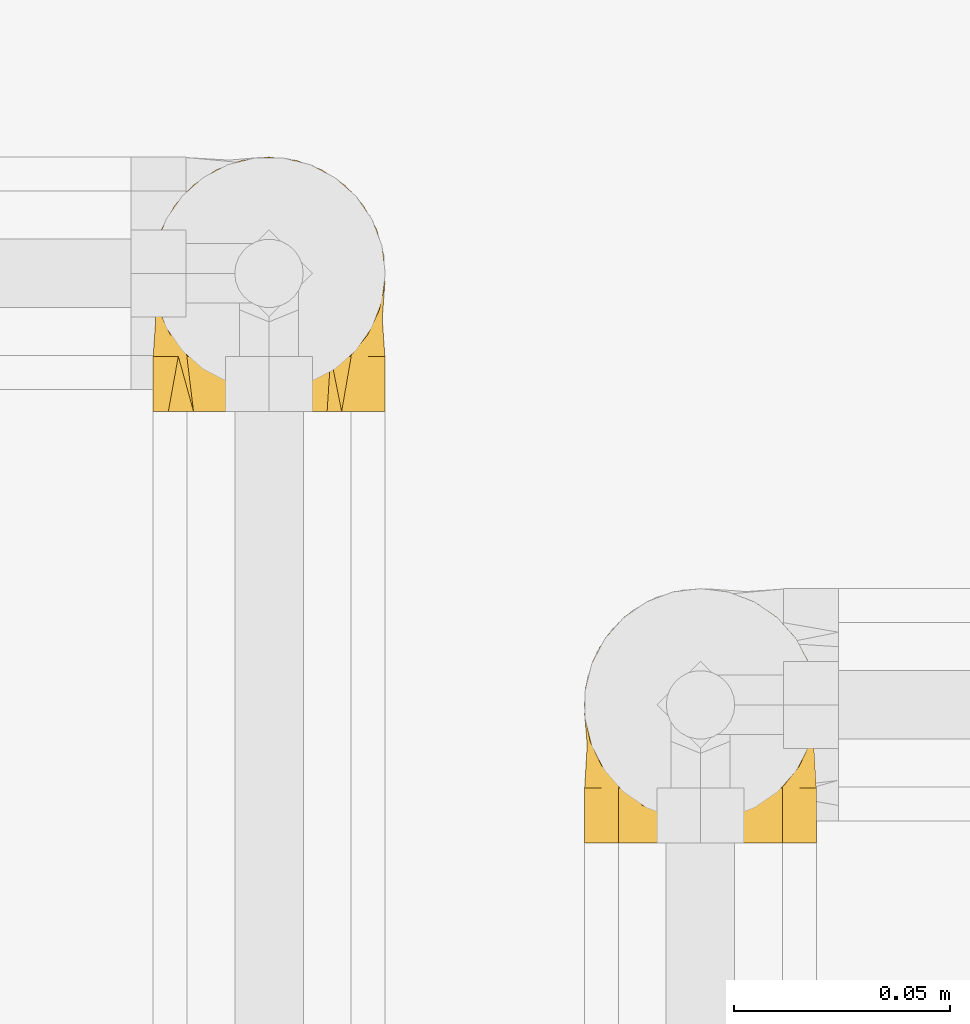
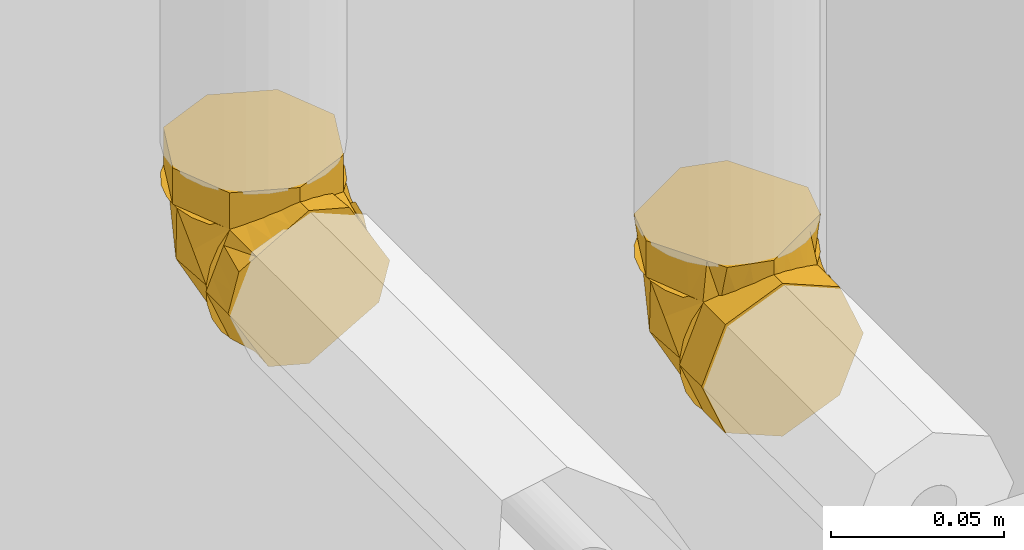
# One storey, part 387 of 652: 2 coverings.
"""IFC2X3 building model written with IfcOpenShell, lengths in millimetres."""

from ifc_helpers import new_model, entity, si_unit, converted_unit, direction, frame, origin, place, context, subcontext, project, spatial, face_set, surface_model, material, type_object, element, save


model = new_model("IFC2X3")

# Units and contexts
model_context = context("Model", 3, precision=0.01, world=frame((0.0, 0.0, 308426.39999999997)), true_north=direction((6.123233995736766e-17, 1.0)))
plan_context = context("Plan", 3, precision=0.01, world=frame((0.0, 0.0, 308426.39999999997)), true_north=direction((6.123233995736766e-17, 1.0)))
body_context = subcontext(model_context, "Body", "Model", "MODEL_VIEW")
ifc_project = project(units=[si_unit("LENGTHUNIT", "METRE", prefix="MILLI"), si_unit("AREAUNIT", "SQUARE_METRE"), si_unit("VOLUMEUNIT", "CUBIC_METRE"), converted_unit("PLANEANGLEUNIT", "DEGREE", entity("IfcPlaneAngleMeasure", 0.017453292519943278), si_unit("PLANEANGLEUNIT", "RADIAN"), dimensions=[0, 0, 0, 0, 0, 0, 0])], contexts=[model_context, plan_context])

# Site, building, storey
site_placement = place(None, origin())
site = spatial("IfcSite", under=ifc_project, at=site_placement, Name="Default", CompositionType="ELEMENT")
building_placement = place(site_placement, origin())
building = spatial("IfcBuilding", under=site, at=building_placement, CompositionType="ELEMENT")
storey_placement = place(building_placement, frame((0.0, 0.0, 1730.6999999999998)))
storey = spatial("IfcBuildingStorey", under=building, at=storey_placement, Name="EG_Produktion_FFB", CompositionType="ELEMENT", Elevation=1730.6999999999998)

# Coverings
ifc_material = material(Name="Dämmung - Armaflex-Schlauch")
covering_type = type_object("IfcCoveringType", Name="Rohrdämmung außen:Armaflex-Schlauch", PredefinedType="INSULATION")
covering_1_placement = place(storey_placement, frame((66196.95799511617, 48922.86390995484, 2671.4672277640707)))
element("IfcCovering", 1, at=covering_1_placement, inside=storey, type_object=covering_type, material=ifc_material, Name="Rohrdämmung außen:Armaflex-Schlauch", ObjectType="Rohrdämmung außen:Armaflex-Schlauch", PredefinedType="INSULATION", context=body_context, shape_type="SurfaceModel", body=[
    surface_model("IfcFaceBasedSurfaceModel", [(47.409122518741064, 12.766249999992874, 47.750272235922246), (51.38658262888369, 17.724287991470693, 47.750272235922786), (54.0915642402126, 23.47627931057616, 47.750272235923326), (55.37345654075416, 29.70195853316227, 47.75027223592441), (55.16088498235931, 36.054685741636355, 47.75027223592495), (53.465685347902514, 42.1807471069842, 47.75027223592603), (50.38224474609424, 47.7390493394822, 47.75027223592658), (46.08224622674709, 52.420111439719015, 47.75027223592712), (40.8051096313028, 55.963296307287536, 47.75027223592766), (34.844660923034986, 58.17132276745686, 47.75027223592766), (28.532772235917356, 58.921249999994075, 47.75027223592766), (22.220883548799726, 58.17132276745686, 47.75027223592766), (16.26043484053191, 55.963296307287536, 47.75027223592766), (10.983298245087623, 52.420111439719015, 47.75027223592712), (6.683299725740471, 47.7390493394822, 47.75027223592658), (3.599859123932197, 42.1807471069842, 47.75027223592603), (1.904659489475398, 36.054685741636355, 47.75027223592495), (1.6920879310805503, 29.70195853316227, 47.75027223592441), (2.973980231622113, 23.47627931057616, 47.750272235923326), (5.678961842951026, 17.724287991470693, 47.750272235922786), (9.65642195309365, 12.766249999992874, 47.750272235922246), (5.678961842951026, 12.766249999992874, 42.79223424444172), (2.973980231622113, 12.766249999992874, 37.04024292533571), (1.6920879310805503, 12.766249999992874, 30.81456370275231), (1.904659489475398, 12.766249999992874, 24.46183649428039), (3.599859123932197, 12.766249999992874, 18.33577512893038), (6.683299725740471, 12.766249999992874, 12.777472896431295), (10.983298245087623, 12.766250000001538, 8.096410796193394), (16.26043484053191, 12.766250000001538, 4.553225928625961), (22.220883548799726, 12.766250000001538, 2.3451994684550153), (28.532772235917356, 12.766250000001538, 1.5952722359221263), (34.844660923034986, 12.766250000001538, 2.3451994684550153), (40.8051096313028, 12.766250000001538, 4.553225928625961), (46.08224622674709, 12.766250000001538, 8.096410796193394), (50.38224474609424, 12.766249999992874, 12.777472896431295), (53.465685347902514, 12.766249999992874, 18.33577512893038), (55.16088498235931, 12.766249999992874, 24.46183649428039), (55.37345654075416, 12.766249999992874, 30.81456370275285), (54.0915642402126, 12.766249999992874, 37.04024292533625), (51.38658262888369, 12.766249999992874, 42.79223424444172), (54.78877002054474, 21.446258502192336, 37.80740068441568), (28.534558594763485, 52.737371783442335, 24.6727372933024), (53.467920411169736, 33.56644893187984, 26.95108659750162), (50.72855273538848, 41.05901484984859, 47.750398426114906), (28.534558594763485, 31.031719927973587, 12.139781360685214), (42.78020068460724, 41.840362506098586, 17.33248765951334), (50.72855273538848, 12.767718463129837, 19.455613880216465), (14.284265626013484, 41.840362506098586, 17.33248765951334), (3.6011967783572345, 33.56644893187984, 26.95108659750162), (2.2756962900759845, 21.446258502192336, 37.80740068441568), (6.335913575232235, 12.767718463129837, 19.455613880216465), (6.335913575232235, 41.05901484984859, 47.750398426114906), (42.818538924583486, 53.00389168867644, 60.51652223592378), (38.056616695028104, 54.97634445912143, 60.51652223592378), (33.29469446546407, 56.948797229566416, 60.51652223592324), (28.532772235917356, 58.921250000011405, 60.5165222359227), (23.77085000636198, 56.948797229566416, 60.5165222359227), (19.008927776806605, 54.97634445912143, 60.51652223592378), (14.247005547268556, 53.00389168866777, 60.51652223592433), (9.485083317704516, 51.03143891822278, 60.51652223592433), (7.512630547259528, 46.26951668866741, 60.51652223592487), (5.540177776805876, 41.507594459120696, 60.51652223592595), (3.567725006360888, 36.74567222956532, 60.51652223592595), (1.5952722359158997, 31.983750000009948, 60.516522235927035), (3.567725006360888, 27.22182777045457, 60.516522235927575), (5.540177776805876, 22.459905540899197, 60.516522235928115), (7.512630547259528, 17.697983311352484, 60.516522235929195), (9.485083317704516, 12.936061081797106, 60.51652223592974), (14.247005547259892, 10.963608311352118, 60.51652223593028), (19.008927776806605, 8.991155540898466, 60.51652223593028), (23.77085000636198, 7.018702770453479, 60.51652223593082), (28.532772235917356, 5.046250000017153, 60.51652223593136), (33.29469446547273, 7.018702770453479, 60.51652223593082), (38.056616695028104, 8.991155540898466, 60.51652223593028), (42.818538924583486, 10.963608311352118, 60.51652223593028), (47.5804611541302, 12.936061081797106, 60.51652223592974), (49.552913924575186, 17.697983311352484, 60.516522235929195), (51.525366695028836, 22.459905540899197, 60.516522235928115), (53.497819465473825, 27.22182777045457, 60.516522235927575), (55.47027223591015, 31.983750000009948, 60.516522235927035), (53.497819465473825, 36.74567222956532, 60.51652223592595), (51.525366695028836, 41.507594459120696, 60.51652223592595), (49.552913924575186, 46.26951668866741, 60.51652223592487), (47.5804611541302, 51.03143891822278, 60.51652223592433), (28.532772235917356, 58.92125000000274, 47.75027223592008), (33.29469446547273, 56.948797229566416, 47.75027223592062), (38.056616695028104, 54.97634445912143, 47.750272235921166), (42.81853892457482, 53.00389168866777, 47.750272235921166), (47.5804611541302, 51.03143891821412, 47.750272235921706), (49.96980627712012, 45.26304951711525, 47.750272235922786), (52.35915140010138, 39.49466011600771, 47.750272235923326), (55.47027223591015, 31.983750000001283, 47.75027223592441), (53.497819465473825, 27.22182777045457, 47.75027223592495), (51.525366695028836, 22.459905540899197, 47.75027223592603), (49.552913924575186, 17.69798331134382, 47.75027223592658), (47.5804611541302, 12.936061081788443, 47.75027223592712), (41.81207175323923, 10.546715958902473, 47.75027223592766), (36.0436823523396, 8.157370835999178, 47.7502722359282), (28.532772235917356, 5.046250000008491, 47.75027223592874), (23.77085000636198, 7.018702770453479, 47.7502722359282), (19.008927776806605, 8.991155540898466, 47.7502722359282), (14.247005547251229, 10.963608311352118, 47.7502722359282), (9.485083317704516, 12.936061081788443, 47.75027223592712), (7.095738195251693, 18.704450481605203, 47.75027223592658), (4.706393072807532, 24.472839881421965, 47.75027223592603), (1.5952722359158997, 31.983750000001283, 47.75027223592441), (3.567725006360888, 36.74567222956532, 47.75027223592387), (5.540177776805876, 41.507594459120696, 47.750272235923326), (7.512630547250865, 46.26951668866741, 47.750272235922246), (9.485083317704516, 51.03143891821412, 47.750272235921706), (15.253472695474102, 53.42078403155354, 47.750272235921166), (21.021862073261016, 55.810129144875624, 47.750272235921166), (28.532772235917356, 0.0, 1.5952722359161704), (34.36491206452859, 0.0, 4.962459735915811), (40.197051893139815, 0.0, 8.329647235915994), (46.02919172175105, 0.0, 11.696834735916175), (51.86133155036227, 0.0, 15.064022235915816), (53.66580189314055, 0.0, 21.798397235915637), (55.47027223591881, 0.0, 28.532772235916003), (52.10308473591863, 0.0, 34.36491206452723), (48.73589723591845, 0.0, 40.19705189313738), (45.368709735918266, 0.0, 46.02919172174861), (42.00152223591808, 0.0, 51.861331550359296), (35.26714723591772, 0.0, 53.66580189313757), (28.532772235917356, 0.0, 55.470272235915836), (22.700632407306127, 0.0, 52.10308473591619), (16.868492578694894, 0.0, 48.73589723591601), (11.036352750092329, 0.0, 45.36870973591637), (5.204212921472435, 0.0, 42.00152223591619), (3.3997425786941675, 0.0, 35.26714723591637), (1.5952722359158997, 0.0, 28.532772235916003), (4.962459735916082, 0.0, 22.700632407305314), (8.329647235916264, 0.0, 16.868492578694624), (11.696834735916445, 0.0, 11.036352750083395), (15.064022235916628, 0.0, 5.204212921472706), (21.79839723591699, 0.0, 3.3997425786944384), (28.532772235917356, 12.766250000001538, 1.5952722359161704), (23.77085000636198, 12.766250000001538, 3.567725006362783), (19.008927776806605, 12.766250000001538, 5.540177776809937), (14.247005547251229, 12.766250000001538, 7.512630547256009), (9.485083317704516, 12.766250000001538, 9.485083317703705), (7.512630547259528, 12.766250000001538, 14.247005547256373), (5.540177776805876, 12.766250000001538, 19.008927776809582), (3.567725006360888, 12.766250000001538, 23.770850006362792), (1.5952722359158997, 12.766250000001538, 28.532772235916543), (3.567725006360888, 12.766250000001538, 33.29469446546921), (5.540177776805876, 12.766250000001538, 38.05661669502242), (7.512630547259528, 12.766250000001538, 42.818538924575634), (9.485083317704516, 12.766250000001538, 47.58046115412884), (14.247005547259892, 12.766250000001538, 49.552913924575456), (19.008927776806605, 12.766250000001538, 51.525366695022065), (23.77085000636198, 12.766250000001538, 53.49781946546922), (28.532772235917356, 12.766250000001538, 55.470272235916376), (33.29469446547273, 12.766250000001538, 53.49781946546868), (38.056616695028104, 12.766250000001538, 51.525366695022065), (42.818538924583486, 12.766250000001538, 49.552913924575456), (47.5804611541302, 12.766250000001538, 47.58046115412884), (49.552913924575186, 12.766250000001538, 42.818538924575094), (51.525366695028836, 12.766250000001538, 38.05661669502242), (53.497819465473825, 12.766250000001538, 33.29469446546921), (55.47027223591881, 12.766250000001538, 28.532772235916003), (53.497819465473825, 12.766250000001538, 23.770850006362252), (51.525366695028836, 12.766250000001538, 19.008927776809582), (49.552913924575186, 12.766250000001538, 14.247005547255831), (47.5804611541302, 12.766250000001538, 9.485083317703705), (42.818538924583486, 12.766250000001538, 7.512630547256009), (38.056616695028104, 12.766250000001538, 5.540177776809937), (33.29469446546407, 12.766250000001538, 3.5677250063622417)], [face_set([[[0, 1, 2, 3, 4, 5, 6, 7, 8, 9, 10, 11, 12, 13, 14, 15, 16, 17, 18, 19]], [[20, 21, 22, 23, 24, 25, 26, 27, 28, 29, 30, 31, 32, 33, 34, 35, 36, 37, 38, 39]], [[0, 40, 3]], [[10, 7, 41]], [[37, 42, 40]], [[42, 7, 43]], [[37, 40, 0]], [[3, 40, 42]], [[44, 41, 45]], [[7, 45, 41]], [[33, 30, 44]], [[44, 45, 33]], [[42, 33, 45]], [[42, 37, 46]], [[7, 42, 45]], [[43, 3, 42]], [[46, 33, 42]], [[13, 10, 41]], [[27, 47, 44]], [[44, 30, 27]], [[48, 47, 27]], [[49, 48, 23]], [[48, 50, 23]], [[44, 47, 41]], [[20, 49, 23]], [[47, 48, 13]], [[17, 49, 20]], [[41, 47, 13]], [[48, 17, 51]], [[48, 27, 50]], [[17, 48, 49]], [[51, 13, 48]]]), face_set([[[52, 53, 54, 55, 56, 57, 58, 59, 60, 61, 62, 63, 64, 65, 66, 67, 68, 69, 70, 71, 72, 73, 74, 75, 76, 77, 78, 79, 80, 81, 82, 83]], [[84, 85, 86, 87, 88, 89, 90, 91, 92, 93, 94, 95, 96, 97, 98, 99, 100, 101, 102, 103, 104, 105, 106, 107, 108, 109, 110, 111]], [[111, 110, 109, 59, 58, 57, 56, 55, 84]], [[59, 109, 108, 107, 106, 105, 63, 62, 61, 60]], [[104, 103, 102, 67, 66, 65, 64, 63, 105]], [[67, 102, 101, 100, 99, 98, 71, 70, 69, 68]], [[97, 96, 95, 75, 74, 73, 72, 71, 98]], [[75, 95, 94, 93, 92, 91, 79, 78, 77, 76]], [[90, 89, 88, 83, 82, 81, 80, 79, 91]], [[83, 88, 87, 86, 85, 84, 55, 54, 53, 52]]]), face_set([[[112, 113, 114, 115, 116, 117, 118, 119, 120, 121, 122, 123, 124, 125, 126, 127, 128, 129, 130, 131, 132, 133, 134, 135]], [[136, 137, 138, 139, 140, 141, 142, 143, 144, 145, 146, 147, 148, 149, 150, 151, 152, 153, 154, 155, 156, 157, 158, 159, 160, 161, 162, 163, 164, 165, 166, 167]], [[155, 121, 156]], [[118, 159, 119]], [[159, 158, 119]], [[123, 154, 153]], [[153, 152, 124]], [[121, 155, 122]], [[120, 158, 157]], [[118, 160, 159]], [[158, 120, 119]], [[124, 123, 153]], [[157, 156, 121]], [[155, 154, 122]], [[123, 122, 154]], [[120, 157, 121]], [[163, 115, 164]], [[112, 167, 113]], [[167, 166, 113]], [[117, 162, 161]], [[161, 160, 118]], [[115, 163, 116]], [[114, 166, 165]], [[112, 136, 167]], [[166, 114, 113]], [[118, 117, 161]], [[165, 164, 115]], [[163, 162, 116]], [[117, 116, 162]], [[114, 165, 115]], [[139, 133, 140]], [[130, 143, 131]], [[143, 142, 131]], [[135, 138, 137]], [[137, 136, 112]], [[133, 139, 134]], [[132, 142, 141]], [[130, 144, 143]], [[142, 132, 131]], [[112, 135, 137]], [[141, 140, 133]], [[139, 138, 134]], [[135, 134, 138]], [[132, 141, 133]], [[147, 127, 148]], [[124, 151, 125]], [[151, 150, 125]], [[129, 146, 145]], [[145, 144, 130]], [[127, 147, 128]], [[126, 150, 149]], [[124, 152, 151]], [[150, 126, 125]], [[130, 129, 145]], [[149, 148, 127]], [[147, 146, 128]], [[129, 128, 146]], [[126, 149, 127]]])]),
])
covering_2_placement = place(storey_placement, frame((66296.95799511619, 48822.86390995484, 2671.4672277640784)))
element("IfcCovering", 2, at=covering_2_placement, inside=storey, type_object=covering_type, material=ifc_material, Name="Rohrdämmung außen:Armaflex-Schlauch", ObjectType="Rohrdämmung außen:Armaflex-Schlauch", PredefinedType="INSULATION", context=body_context, shape_type="SurfaceModel", body=[
    surface_model("IfcFaceBasedSurfaceModel", [(9.65642195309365, 12.766250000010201, 47.75027223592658), (5.678961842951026, 12.766250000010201, 42.79223424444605), (2.973980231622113, 12.766250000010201, 37.040242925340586), (1.6920879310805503, 12.766250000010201, 30.81456370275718), (1.904659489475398, 12.766250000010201, 24.46183649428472), (3.599859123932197, 12.766250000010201, 18.33577512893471), (6.683299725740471, 12.766250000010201, 12.777472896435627), (10.983298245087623, 12.766250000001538, 8.096410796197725), (16.26043484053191, 12.766250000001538, 4.553225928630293), (22.220883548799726, 12.766250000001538, 2.3451994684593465), (28.532772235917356, 12.766250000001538, 1.5952722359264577), (34.844660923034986, 12.766250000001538, 2.3451994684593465), (40.8051096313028, 12.766250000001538, 4.553225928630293), (46.08224622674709, 12.766250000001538, 8.096410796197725), (50.38224474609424, 12.766250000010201, 12.777472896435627), (53.465685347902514, 12.766250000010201, 18.33577512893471), (55.16088498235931, 12.766250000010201, 24.46183649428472), (55.37345654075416, 12.766250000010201, 30.81456370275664), (54.0915642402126, 12.766250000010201, 37.04024292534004), (51.38658262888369, 12.766250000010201, 42.79223424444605), (47.409122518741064, 12.766250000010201, 47.75027223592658), (51.38658262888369, 17.72428799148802, 47.75027223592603), (54.0915642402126, 23.476279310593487, 47.75027223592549), (55.37345654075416, 29.701958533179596, 47.75027223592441), (55.16088498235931, 36.05468574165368, 47.75027223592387), (53.465685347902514, 42.18074710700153, 47.750272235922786), (50.38224474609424, 47.73904933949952, 47.750272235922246), (46.08224622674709, 52.420111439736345, 47.750272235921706), (40.8051096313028, 55.96329630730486, 47.750272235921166), (34.844660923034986, 58.17132276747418, 47.750272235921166), (28.532772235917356, 58.921250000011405, 47.750272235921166), (22.220883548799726, 58.17132276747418, 47.750272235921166), (16.26043484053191, 55.96329630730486, 47.750272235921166), (10.983298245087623, 52.420111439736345, 47.750272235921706), (6.683299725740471, 47.73904933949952, 47.750272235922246), (3.599859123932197, 42.18074710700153, 47.750272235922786), (1.904659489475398, 36.05468574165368, 47.75027223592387), (1.6920879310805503, 29.701958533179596, 47.75027223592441), (2.973980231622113, 23.476279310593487, 47.75027223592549), (5.678961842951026, 17.72428799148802, 47.75027223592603), (2.274243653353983, 22.708099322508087, 39.06982362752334), (28.533105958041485, 35.842181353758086, 7.779001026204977), (6.339111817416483, 12.764520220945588, 19.455613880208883), (3.599744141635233, 33.563250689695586, 26.95108659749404), (14.287463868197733, 43.18591914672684, 18.674847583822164), (28.533105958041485, 48.376300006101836, 29.486687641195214), (6.339111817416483, 41.06046748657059, 47.750398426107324), (42.77874804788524, 43.18591914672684, 18.674847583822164), (53.466467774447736, 33.563250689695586, 26.95108659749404), (54.78731738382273, 22.708099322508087, 39.06982362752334), (50.72710009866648, 41.06046748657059, 47.750398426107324), (50.72710009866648, 12.764520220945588, 19.455613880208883), (28.532772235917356, 0.0, 1.5952722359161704), (33.29469446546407, 0.0, 3.567725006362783), (38.05661669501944, 0.0, 5.540177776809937), (42.81853892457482, 0.0, 7.512630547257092), (47.5804611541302, 0.0, 9.485083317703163), (49.552913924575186, 0.0, 14.247005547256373), (51.525366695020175, 0.0, 19.008927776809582), (53.49781946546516, 0.0, 23.770850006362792), (55.47027223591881, 0.0, 28.532772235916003), (53.497819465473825, 0.0, 33.29469446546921), (51.525366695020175, 0.0, 38.05661669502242), (49.552913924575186, 0.0, 42.818538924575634), (47.5804611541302, 0.0, 47.5804611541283), (42.81853892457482, 0.0, 49.552913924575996), (38.05661669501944, 0.0, 51.525366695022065), (33.29469446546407, 0.0, 53.49781946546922), (28.532772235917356, 0.0, 55.470272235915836), (23.77085000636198, 0.0, 53.49781946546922), (19.008927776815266, 0.0, 51.525366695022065), (14.247005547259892, 0.0, 49.552913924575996), (9.485083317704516, 0.0, 47.58046115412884), (7.512630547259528, 0.0, 42.818538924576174), (5.54017777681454, 0.0, 38.05661669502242), (3.567725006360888, 0.0, 33.29469446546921), (1.5952722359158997, 0.0, 28.532772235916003), (3.567725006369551, 0.0, 23.770850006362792), (5.54017777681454, 0.0, 19.008927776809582), (7.512630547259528, 0.0, 14.247005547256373), (9.485083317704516, 0.0, 9.485083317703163), (14.247005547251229, 0.0, 7.512630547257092), (19.008927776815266, 0.0, 5.540177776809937), (23.770850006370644, 0.0, 3.567725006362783), (28.532772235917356, 12.766250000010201, 1.5952722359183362), (23.770850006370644, 12.766250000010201, 3.567725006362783), (19.008927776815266, 12.766250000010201, 5.540177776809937), (14.247005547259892, 12.766250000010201, 7.512630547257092), (9.485083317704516, 12.766250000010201, 9.485083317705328), (7.095738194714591, 12.766250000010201, 15.253472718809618), (4.706393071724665, 12.766250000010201, 21.021862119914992), (1.5952722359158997, 12.766250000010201, 28.532772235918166), (3.567725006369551, 12.766250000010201, 33.29469446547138), (5.54017777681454, 12.766250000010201, 38.05661669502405), (7.512630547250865, 12.766250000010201, 42.818538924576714), (9.485083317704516, 12.766250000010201, 47.58046115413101), (15.253472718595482, 12.766250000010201, 49.96980627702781), (21.021862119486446, 12.766250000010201, 52.359151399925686), (28.532772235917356, 12.766250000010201, 55.470272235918), (33.29469446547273, 12.766250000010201, 53.49781946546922), (38.05661669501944, 12.766250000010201, 51.52536669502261), (42.81853892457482, 12.766250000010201, 49.552913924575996), (47.5804611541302, 12.766250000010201, 47.58046115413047), (49.96980627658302, 12.766250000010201, 41.81207175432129), (52.359151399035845, 12.766250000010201, 36.04368235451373), (55.47027223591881, 12.766250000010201, 28.532772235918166), (53.49781946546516, 12.766250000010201, 23.77085000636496), (51.525366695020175, 12.766250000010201, 19.008927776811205), (49.55291392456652, 12.766250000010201, 14.247005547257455), (47.5804611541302, 12.766250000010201, 9.485083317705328), (41.81207177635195, 12.766250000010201, 7.095738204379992), (36.0436823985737, 12.766250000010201, 4.706393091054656), (28.532772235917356, 58.921250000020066, 60.516522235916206), (22.700632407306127, 55.55406250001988, 60.51652223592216), (16.868492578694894, 52.186875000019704, 60.51652223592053), (11.036352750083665, 48.81968750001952, 60.516522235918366), (5.204212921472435, 45.452500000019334, 60.516522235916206), (3.3997425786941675, 38.71812500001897, 60.516522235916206), (1.5952722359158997, 31.98375000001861, 60.516522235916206), (4.962459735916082, 26.15161017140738, 60.51652223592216), (8.329647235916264, 20.319470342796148, 60.51652223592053), (11.696834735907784, 14.487330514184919, 60.516522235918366), (15.064022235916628, 8.65519068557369, 60.516522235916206), (21.79839723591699, 6.850720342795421, 60.516522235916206), (28.532772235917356, 5.046250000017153, 60.516522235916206), (34.36491206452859, 8.413437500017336, 60.51652223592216), (40.197051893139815, 11.780625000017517, 60.51652223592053), (46.02919172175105, 15.1478125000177, 60.516522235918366), (51.86133155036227, 18.51500000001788, 60.516522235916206), (53.66580189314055, 25.249375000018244, 60.516522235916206), (55.47027223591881, 31.98375000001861, 60.516522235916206), (52.10308473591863, 37.81588982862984, 60.51652223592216), (48.73589723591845, 43.64802965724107, 60.51652223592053), (45.368709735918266, 49.4801694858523, 60.516522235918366), (42.00152223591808, 55.312309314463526, 60.516522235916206), (35.26714723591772, 57.1167796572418, 60.516522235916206), (28.532772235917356, 58.921250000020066, 47.75027223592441), (33.29469446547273, 56.94879722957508, 47.75027223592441), (38.05661669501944, 54.97634445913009, 47.75027223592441), (42.81853892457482, 53.00389168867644, 47.75027223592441), (47.5804611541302, 51.03143891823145, 47.75027223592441), (49.552913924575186, 46.26951668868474, 47.75027223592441), (51.525366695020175, 41.50759445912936, 47.75027223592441), (53.49781946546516, 36.745672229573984, 47.75027223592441), (55.47027223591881, 31.98375000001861, 47.75027223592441), (53.497819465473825, 27.221827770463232, 47.75027223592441), (51.525366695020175, 22.459905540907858, 47.75027223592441), (49.552913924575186, 17.697983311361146, 47.75027223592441), (47.5804611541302, 12.93606108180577, 47.75027223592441), (42.81853892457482, 10.963608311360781, 47.75027223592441), (38.05661669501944, 8.99115554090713, 47.75027223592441), (33.29469446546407, 7.018702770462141, 47.75027223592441), (28.532772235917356, 5.046250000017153, 47.75027223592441), (23.77085000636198, 7.018702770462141, 47.75027223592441), (19.008927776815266, 8.99115554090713, 47.75027223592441), (14.247005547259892, 10.963608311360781, 47.75027223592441), (9.485083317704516, 12.93606108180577, 47.75027223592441), (7.512630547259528, 17.697983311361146, 47.75027223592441), (5.54017777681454, 22.459905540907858, 47.75027223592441), (3.567725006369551, 27.221827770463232, 47.75027223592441), (1.5952722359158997, 31.98375000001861, 47.75027223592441), (3.567725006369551, 36.745672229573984, 47.75027223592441), (5.54017777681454, 41.50759445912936, 47.75027223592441), (7.512630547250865, 46.26951668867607, 47.75027223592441), (9.485083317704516, 51.03143891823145, 47.75027223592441), (14.247005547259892, 53.00389168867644, 47.75027223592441), (19.008927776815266, 54.97634445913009, 47.75027223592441), (23.77085000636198, 56.948797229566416, 47.75027223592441)], [face_set([[[0, 1, 2, 3, 4, 5, 6, 7, 8, 9, 10, 11, 12, 13, 14, 15, 16, 17, 18, 19]], [[20, 21, 22, 23, 24, 25, 26, 27, 28, 29, 30, 31, 32, 33, 34, 35, 36, 37, 38, 39]], [[0, 40, 3]], [[10, 7, 41]], [[42, 3, 43]], [[40, 43, 3]], [[37, 40, 0]], [[7, 43, 44]], [[45, 41, 44]], [[7, 44, 41]], [[33, 30, 45]], [[45, 44, 33]], [[43, 33, 44]], [[43, 37, 46, 33]], [[43, 7, 42]], [[37, 43, 40]], [[13, 10, 41]], [[27, 47, 45]], [[45, 30, 27]], [[48, 47, 27]], [[49, 48, 23]], [[50, 23, 48, 27]], [[45, 47, 41]], [[20, 49, 23]], [[47, 48, 13]], [[17, 49, 20]], [[41, 47, 13]], [[48, 17, 51]], [[17, 48, 49]], [[51, 13, 48]]]), face_set([[[52, 53, 54, 55, 56, 57, 58, 59, 60, 61, 62, 63, 64, 65, 66, 67, 68, 69, 70, 71, 72, 73, 74, 75, 76, 77, 78, 79, 80, 81, 82, 83]], [[84, 85, 86, 87, 88, 89, 90, 91, 92, 93, 94, 95, 96, 97, 98, 99, 100, 101, 102, 103, 104, 105, 106, 107, 108, 109, 110, 111]], [[111, 110, 109, 56, 55, 54, 53, 52, 84]], [[56, 109, 108, 107, 106, 105, 60, 59, 58, 57]], [[104, 103, 102, 64, 63, 62, 61, 60, 105]], [[64, 102, 101, 100, 99, 98, 68, 67, 66, 65]], [[97, 96, 95, 72, 71, 70, 69, 68, 98]], [[72, 95, 94, 93, 92, 91, 76, 75, 74, 73]], [[90, 89, 88, 80, 79, 78, 77, 76, 91]], [[80, 88, 87, 86, 85, 84, 52, 83, 82, 81]]]), face_set([[[112, 113, 114, 115, 116, 117, 118, 119, 120, 121, 122, 123, 124, 125, 126, 127, 128, 129, 130, 131, 132, 133, 134, 135]], [[136, 137, 138, 139, 140, 141, 142, 143, 144, 145, 146, 147, 148, 149, 150, 151, 152, 153, 154, 155, 156, 157, 158, 159, 160, 161, 162, 163, 164, 165, 166, 167]], [[155, 121, 156]], [[118, 159, 119]], [[159, 158, 119]], [[123, 154, 153]], [[153, 152, 124]], [[121, 155, 122]], [[120, 158, 157]], [[118, 160, 159]], [[158, 120, 119]], [[124, 123, 153]], [[157, 156, 121]], [[155, 154, 122]], [[123, 122, 154]], [[120, 157, 121]], [[163, 115, 164]], [[112, 167, 113]], [[167, 166, 113]], [[117, 162, 161]], [[161, 160, 118]], [[115, 163, 116]], [[114, 166, 165]], [[112, 136, 167]], [[166, 114, 113]], [[118, 117, 161]], [[165, 164, 115]], [[163, 162, 116]], [[117, 116, 162]], [[114, 165, 115]], [[139, 133, 140]], [[130, 143, 131]], [[143, 142, 131]], [[135, 138, 137]], [[137, 136, 112]], [[133, 139, 134]], [[132, 142, 141]], [[130, 144, 143]], [[142, 132, 131]], [[112, 135, 137]], [[141, 140, 133]], [[139, 138, 134]], [[135, 134, 138]], [[132, 141, 133]], [[147, 127, 148]], [[124, 151, 125]], [[151, 150, 125]], [[129, 146, 145]], [[145, 144, 130]], [[127, 147, 128]], [[126, 150, 149]], [[124, 152, 151]], [[150, 126, 125]], [[130, 129, 145]], [[149, 148, 127]], [[147, 146, 128]], [[129, 128, 146]], [[126, 149, 127]]])]),
])

save(model, "model.ifc")
